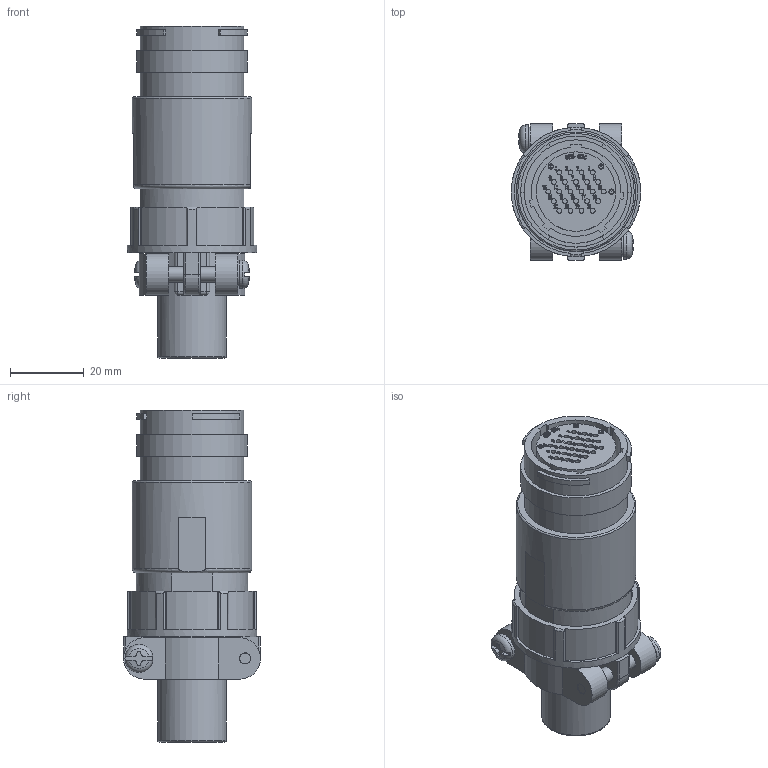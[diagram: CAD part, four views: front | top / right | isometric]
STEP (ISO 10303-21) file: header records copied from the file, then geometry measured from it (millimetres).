
FILE_DESCRIPTION (( 'STEP AP203' ), '1' );
FILE_NAME ('WEBCR2524F-3-D(R1).STEP', '2021-08-10T00:40:26', ( '' ), ( '' ), 'SwSTEP 2.0', 'SolidWorks 2018', '' );
FILE_SCHEMA (( 'CONFIG_CONTROL_DESIGN' ));
Products named in the file (1): WEBCR2524F-3-D(R1)
Bounding box: 35 x 37 x 89.8 mm (x, y, z)
Volume: 43339.7 mm3; surface area: 22198.9 mm2
Topology: 1 solids, 1 shells, 2012 faces, 5465 edges, 3621 vertices
Faces by surface type: plane 874, bspline 865, cylinder 215, cone 32, torus 18, sphere 8
Full cylindrical faces by diameter (mm): 1.1 x24, 1.2 x4, 1.3 x24, 1.4 x4, 1.55 x24, 2.8 x2, 3 x2, 4.1 x2, 4.3 x4, 7.6 x2, 10 x2, 17.8 x1, 18.64 x1, 19 x1, 21.5 x2, 23.2 x1, 23.6 x1, 27.96 x1, 28 x1, 30 x1, 30.5 x1, 32.3 x1, 35 x1
Entity records: 93266 total; most frequent: CARTESIAN_POINT 49353, ORIENTED_EDGE 10442, DIRECTION 6146, EDGE_CURVE 5221, VERTEX_POINT 3529, LINE 2936, VECTOR 2936, EDGE_LOOP 2354
